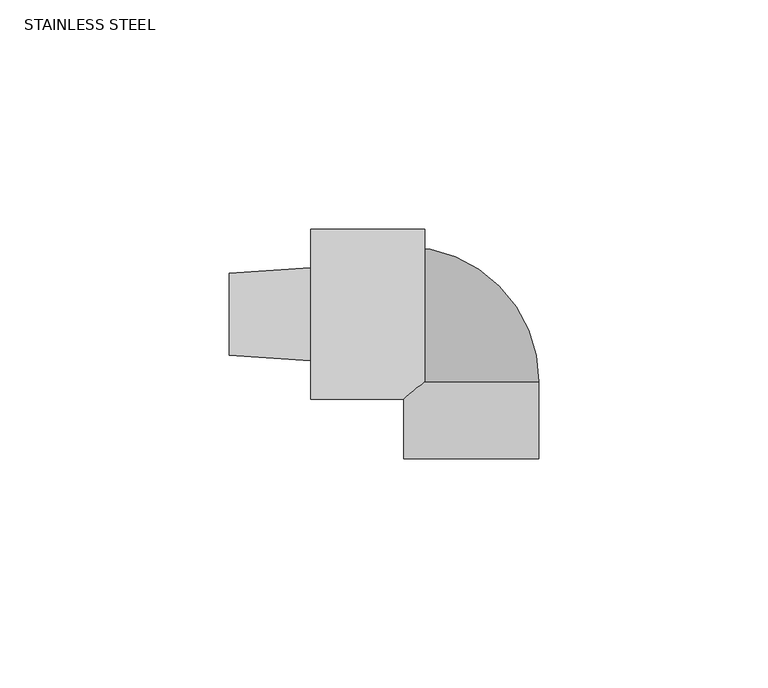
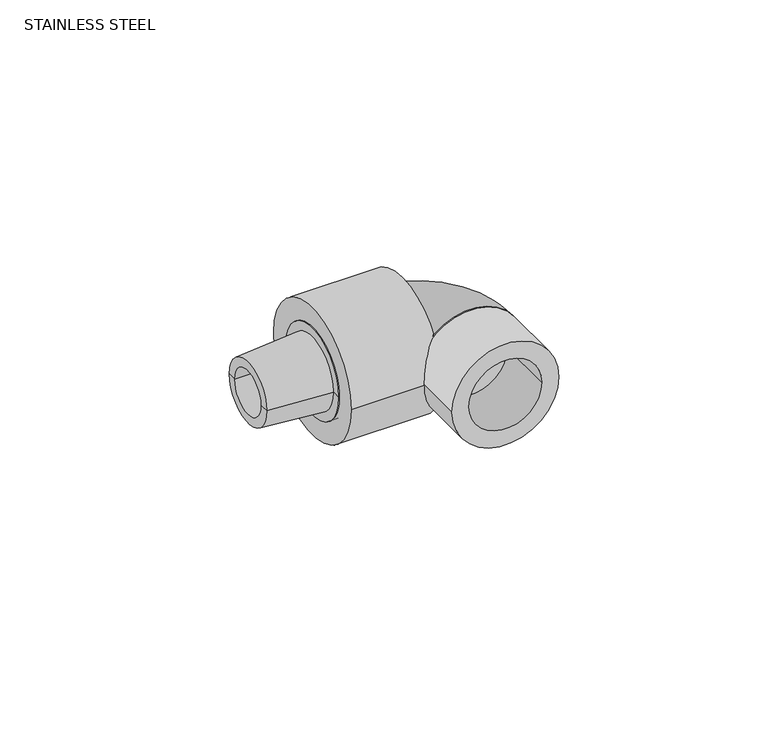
"""IFC4 building model written with IfcOpenShell, lengths in millimetres: valve geometry, Aquatherm - Elbow Transition PPR to M NPT : STAINLESS STEEL."""

from ifc_helpers import new_model, si_unit, point, frame, origin, origin_2d, place, context, project, spatial, polyline, circle_curve, ellipse_curve, trimmed, segment, composite_curve, outline, extrude, source, transform, mapped, element, save
from ifc_brep_helpers import plane_surface, cylinder_surface, revolved_surface, advanced_brep


def stainless_steel_af7d8336(model_context):
    return source(origin(), model_context, "Body", "SolidModel", [
        advanced_brep(
        [(-16.002, 6.35, 0.0), (-52.8121562, 6.35, 0.0), (-52.8121562, -6.35, 0.0), (-16.002, -6.35, 0.0), (-16.002, 12.7, 0.0), (-16.002, -12.7, 0.0), (-35.052, 12.7, 0.0), (-35.052, -12.7, 0.0), (-52.8121562, 8.9193357, 0.0), (-52.8121562, -8.9193357, 0.0), (-35.052, 10.1350212, 0.0), (-35.052, -10.1350212, 0.0)],
        [
            (0, 1),
            (1, 2, circle_curve(frame((-52.8121562, 0.0, 0.0), z_axis=(-1.0, 0.0, 0.0), x_axis=(0.0, -1.0, 0.0)), 6.35)),
            (2, 3),
            (3, 0, circle_curve(frame((-16.002, 0.0, 0.0), z_axis=(1.0, 0.0, 0.0), x_axis=(0.0, -1.0, 0.0)), 6.35)),
            (2, 1, circle_curve(frame((-52.8121562, 0.0, 0.0), z_axis=(-1.0, 0.0, 0.0), x_axis=(0.0, -1.0, 0.0)), 6.35)),
            (0, 3, circle_curve(frame((-16.002, 0.0, 0.0), z_axis=(1.0, 0.0, 0.0), x_axis=(0.0, -1.0, 0.0)), 6.35)),
            (4, 0),
            (3, 5),
            (5, 4, circle_curve(frame((-16.002, 0.0, 0.0), z_axis=(1.0, 0.0, 0.0), x_axis=(0.0, -1.0, 0.0)), 12.7)),
            (4, 5, circle_curve(frame((-16.002, 0.0, 0.0), z_axis=(1.0, 0.0, 0.0), x_axis=(0.0, -1.0, 0.0)), 12.7)),
            (6, 4),
            (5, 7),
            (7, 6, circle_curve(frame((-35.052, 0.0, 0.0), z_axis=(1.0, 0.0, 0.0), x_axis=(0.0, -1.0, 0.0)), 12.7)),
            (6, 7, circle_curve(frame((-35.052, 0.0, 0.0), z_axis=(1.0, 0.0, 0.0), x_axis=(0.0, -1.0, 0.0)), 12.7)),
            (1, 8),
            (8, 9, circle_curve(frame((-52.8121562, 0.0, 0.0), z_axis=(-1.0, 0.0, 0.0), x_axis=(0.0, -1.0, 0.0)), 8.9193357)),
            (9, 2),
            (9, 8, circle_curve(frame((-52.8121562, 0.0, 0.0), z_axis=(-1.0, 0.0, 0.0), x_axis=(0.0, -1.0, 0.0)), 8.9193357)),
            (10, 6),
            (7, 11),
            (11, 10, circle_curve(frame((-35.052, 0.0, 0.0), z_axis=(1.0, 0.0, 0.0), x_axis=(0.0, -1.0, 0.0)), 10.1350212)),
            (10, 11, circle_curve(frame((-35.052, 0.0, 0.0), z_axis=(1.0, 0.0, 0.0), x_axis=(0.0, -1.0, 0.0)), 10.1350212)),
            (8, 10),
            (11, 9),
        ],
        [
            revolved_surface(polyline([(-52.8121562, -6.35, 0.0), (-16.001999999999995, -6.35, 0.0)]), (-54.6453813, 0.0, 0.0), (-1.0, 0.0, 0.0)),
            plane_surface(frame((-16.002, 0.0, 0.0), z_axis=(1.0, 0.0, 0.0), x_axis=(0.0, -1.0, 0.0))),
            cylinder_surface(frame((-54.6453813, 0.0, 0.0), z_axis=(-1.0, 0.0, 0.0), x_axis=(0.0, -1.0, 0.0)), 12.7),
            plane_surface(frame((-52.8121562, 0.0, 0.0), z_axis=(-1.0, 0.0, 0.0), x_axis=(0.0, -1.0, 0.0))),
            plane_surface(frame((-35.052, 0.0, 0.0), z_axis=(-1.0, 0.0, 0.0), x_axis=(0.0, -1.0, 0.0))),
            revolved_surface(polyline([(-35.052, -10.1350212, 0.0), (-52.8121562, -8.9193357, 0.0)]), (-54.6453813, 0.0, 0.0), (-1.0, 0.0, 0.0)),
        ],
        [
            (0, [[1, 2, 3, 4]]),
            (0, [[-3, 5, -1, 6]]),
            (1, [[7, -4, 8, 9]]),
            (1, [[-8, -6, -7, 10]]),
            (2, [[11, -9, 12, 13]]),
            (2, [[-12, -10, -11, 14]]),
            (3, [[15, 16, 17, -2]]),
            (3, [[-17, 18, -15, -5]]),
            (4, [[19, -13, 20, 21]]),
            (4, [[-20, -14, -19, 22]]),
            (5, [[23, -21, 24, -16]]),
            (5, [[-24, -22, -23, -18]]),
        ],
    ),
        advanced_brep(
        [(14.732, -14.732, 0.0), (-14.732, -14.732, 0.0), (6.35, -14.732, 0.0), (-6.35, -14.732, 0.0), (-14.732, 14.732, 0.0), (-14.732, 6.35, 0.0), (-14.732, -6.35, 0.0)],
        [
            (0, 1, circle_curve(frame((0.0, -14.732, 0.0), z_axis=(0.0, -1.0, 0.0), x_axis=(-1.0, 0.0, 0.0)), 14.732)),
            (1, 0, circle_curve(frame((0.0, -14.732, 0.0), z_axis=(0.0, -1.0, 0.0), x_axis=(-1.0, 0.0, 0.0)), 14.732)),
            (2, 3, circle_curve(frame((0.0, -14.732, 0.0), z_axis=(0.0, 1.0, 0.0), x_axis=(-1.0, 0.0, 0.0)), 6.35)),
            (3, 2, circle_curve(frame((0.0, -14.732, 0.0), z_axis=(0.0, 1.0, 0.0), x_axis=(-1.0, 0.0, 0.0)), 6.35)),
            (4, 1, circle_curve(frame((-14.732, 0.0, 0.0), z_axis=(-1.0, 0.0, 0.0), x_axis=(0.0, -1.0, 0.0)), 14.732)),
            (1, 4, circle_curve(frame((-14.732, 0.0, 0.0), z_axis=(-1.0, 0.0, 0.0), x_axis=(0.0, -1.0, 0.0)), 14.732)),
            (5, 6, circle_curve(frame((-14.732, 0.0, 0.0), z_axis=(1.0, 0.0, 0.0), x_axis=(0.0, -1.0, 0.0)), 6.35)),
            (6, 5, circle_curve(frame((-14.732, 0.0, 0.0), z_axis=(1.0, 0.0, 0.0), x_axis=(0.0, -1.0, 0.0)), 6.35)),
            (4, 0, circle_curve(frame((-14.732, -14.732, 0.0), z_axis=(0.0, 0.0, -1.0), x_axis=(1.0, 0.0, 0.0)), 29.464)),
            (5, 2, circle_curve(frame((-14.732, -14.732, 0.0), z_axis=(0.0, 0.0, -1.0), x_axis=(1.0, 0.0, 0.0)), 21.082)),
            (3, 6, circle_curve(frame((-14.732, -14.732, 0.0), z_axis=(0.0, 0.0, 1.0), x_axis=(1.0, 0.0, 0.0)), 8.382)),
        ],
        [
            plane_surface(frame((-14.732, -14.732, 41.9103543), z_axis=(0.0, -1.0, 0.0), x_axis=(1.0, 0.0, 0.0))),
            plane_surface(frame((-14.732, -14.732, 41.9103543), z_axis=(-1.0, 0.0, 0.0), x_axis=(0.0, 1.0, 0.0))),
            revolved_surface(trimmed(ellipse_curve(frame((0.0, -14.732, 0.0), z_axis=(0.0, 1.0, 0.0), x_axis=(-1.0, 0.0, 0.0)), 14.732, 14.732), [point((14.732, -14.732, 0.0))], [point((-14.732, -14.732, 0.0))], True, "CARTESIAN"), (-14.732, -14.732, 41.9103543), (0.0, 0.0, -1.0)),
            revolved_surface(trimmed(ellipse_curve(frame((0.0, -14.732, 0.0), z_axis=(0.0, 1.0, 0.0), x_axis=(-1.0, 0.0, 0.0)), 14.732, 14.732), [point((-14.732, -14.732, 0.0))], [point((14.732, -14.732, 0.0))], True, "CARTESIAN"), (-14.732, -14.732, 41.9103543), (0.0, 0.0, -1.0)),
            revolved_surface(trimmed(ellipse_curve(frame((0.0, -14.732, 0.0), z_axis=(0.0, -1.0, 0.0), x_axis=(-1.0, 0.0, 0.0)), 6.35, 6.35), [point((6.35, -14.732, 0.0))], [point((-6.35, -14.732, 0.0))], True, "CARTESIAN"), (-14.732, -14.732, 41.9103543), (0.0, 0.0, -1.0)),
            revolved_surface(trimmed(ellipse_curve(frame((0.0, -14.732, 0.0), z_axis=(0.0, -1.0, 0.0), x_axis=(-1.0, 0.0, 0.0)), 6.35, 6.35), [point((-6.35, -14.732, 0.0))], [point((6.35, -14.732, 0.0))], True, "CARTESIAN"), (-14.732, -14.732, 41.9103543), (0.0, 0.0, -1.0)),
        ],
        [
            (0, [[1, 2], [3, 4]]),
            (1, [[5, 6], [7, 8]]),
            (2, [[-5, 9, -2]]),
            (3, [[-6, -1, -9]]),
            (4, [[-7, 10, -4, 11]]),
            (5, [[-8, -11, -3, -10]]),
        ],
    ),
        extrude(outline(composite_curve([segment(trimmed(circle_curve(origin_2d(), 14.732), [point((0.0, 14.732))], [point((0.0, -14.732))], False, "CARTESIAN"), True, "CONTINUOUS"), segment(trimmed(circle_curve(origin_2d(), 14.732), [point((0.0, -14.732))], [point((0.0, 14.732))], False, "CARTESIAN"), True, "CONTINUOUS")], self_intersect=False), holes=[composite_curve([segment(trimmed(circle_curve(origin_2d(), 10.033), [point((0.0, 10.033))], [point((0.0, -10.033))], True, "CARTESIAN"), True, "CONTINUOUS"), segment(trimmed(circle_curve(origin_2d(), 10.033), [point((0.0, -10.033))], [point((0.0, 10.033))], True, "CARTESIAN"), True, "CONTINUOUS")], self_intersect=False)]), frame((0.0, -31.496, 0.0), z_axis=(0.0, 1.0, 0.0), x_axis=(0.0, 0.0, 1.0)), (0.0, 0.0, 1.0), 16.764),
        extrude(outline(composite_curve([segment(trimmed(circle_curve(origin_2d(), 18.542), [point((18.542, 0.0))], [point((-18.542, 0.0))], False, "CARTESIAN"), True, "CONTINUOUS"), segment(trimmed(circle_curve(origin_2d(), 18.542), [point((-18.542, 0.0))], [point((18.542, 0.0))], False, "CARTESIAN"), True, "CONTINUOUS")], self_intersect=False), holes=[composite_curve([segment(trimmed(circle_curve(origin_2d(), 12.7), [point((12.7, 0.0))], [point((-12.7, 0.0))], True, "CARTESIAN"), True, "CONTINUOUS"), segment(trimmed(circle_curve(origin_2d(), 12.7), [point((-12.7, 0.0))], [point((12.7, 0.0))], True, "CARTESIAN"), True, "CONTINUOUS")], self_intersect=False)]), frame((-35.052, 0.0, 0.0), z_axis=(1.0, 0.0, 0.0), x_axis=(0.0, 1.0, 0.0)), (0.0, 0.0, 1.0), 24.892),
    ])


if __name__ == "__main__":
    model = new_model("IFC4")
    model_context = context("Model", 3, world=origin())
    ifc_project = project(units=[si_unit("LENGTHUNIT", "METRE", prefix="MILLI")], contexts=[model_context])
    site = spatial("IfcSite", under=ifc_project)
    building = spatial("IfcBuilding", under=site)
    placement = place(None, origin())
    stainless_steel_shape = stainless_steel_af7d8336(model_context)
    element("IfcValve", 1, ObjectType="Aquatherm - Elbow Transition PPR to M NPT : STAINLESS STEEL", at=placement, inside=building, context=model_context, shape_type="MappedRepresentation", body=[
        mapped(stainless_steel_shape, transform((0.0, 0.0, 0.0), x_axis=(1.0, 0.0, 0.0), y_axis=(0.0, 1.0, 0.0), z_axis=(0.0, 0.0, 1.0))),
    ])
    save(model, "model.ifc")
